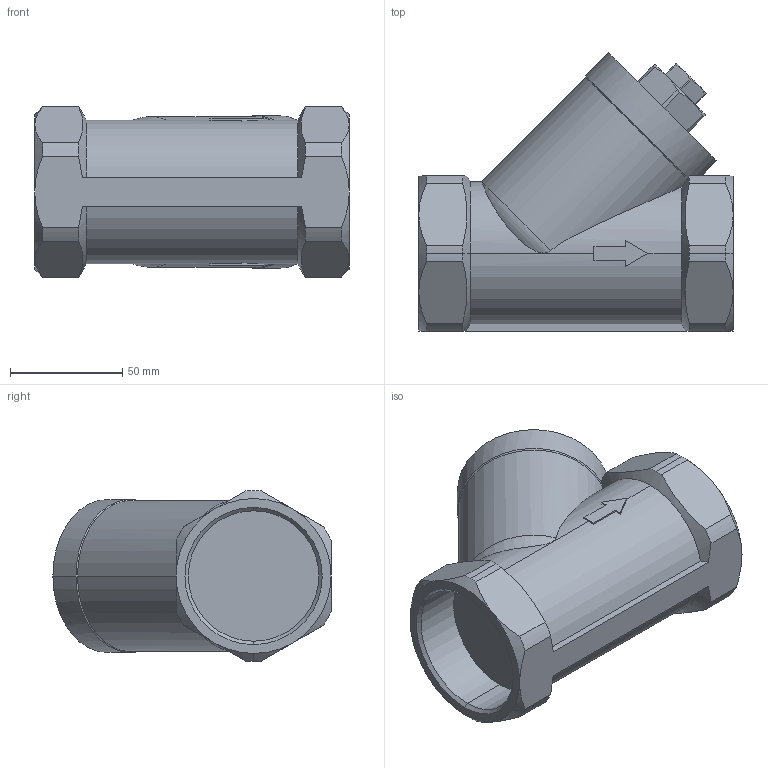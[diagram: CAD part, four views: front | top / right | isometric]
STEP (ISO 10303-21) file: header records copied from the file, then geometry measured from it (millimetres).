
FILE_DESCRIPTION (( 'STEP AP203' ), '1' );
FILE_NAME ('10.000.050.0.STEP', '2018-12-07T13:23:25', ( 'dell2' ), ( 'Microsoft' ), 'SwSTEP 2.0', 'SolidWorks 2017', '' );
FILE_SCHEMA (( 'CONFIG_CONTROL_DESIGN' ));
Length unit declared in the file: millimetre
Products named in the file (1): 10.000.050.0
Bounding box: 140 x 123.81 x 76 mm (x, y, z)
Volume: 579482.9 mm3; surface area: 58892.9 mm2
Topology: 1 solids, 1 shells, 125 faces, 318 edges, 199 vertices
Faces by surface type: plane 48, cone 38, cylinder 37, torus 2
Entity records: 4378 total; most frequent: CARTESIAN_POINT 1360, ORIENTED_EDGE 636, DIRECTION 603, EDGE_CURVE 318, AXIS2_PLACEMENT_3D 242, VERTEX_POINT 199, EDGE_LOOP 129, FACE_OUTER_BOUND 125
